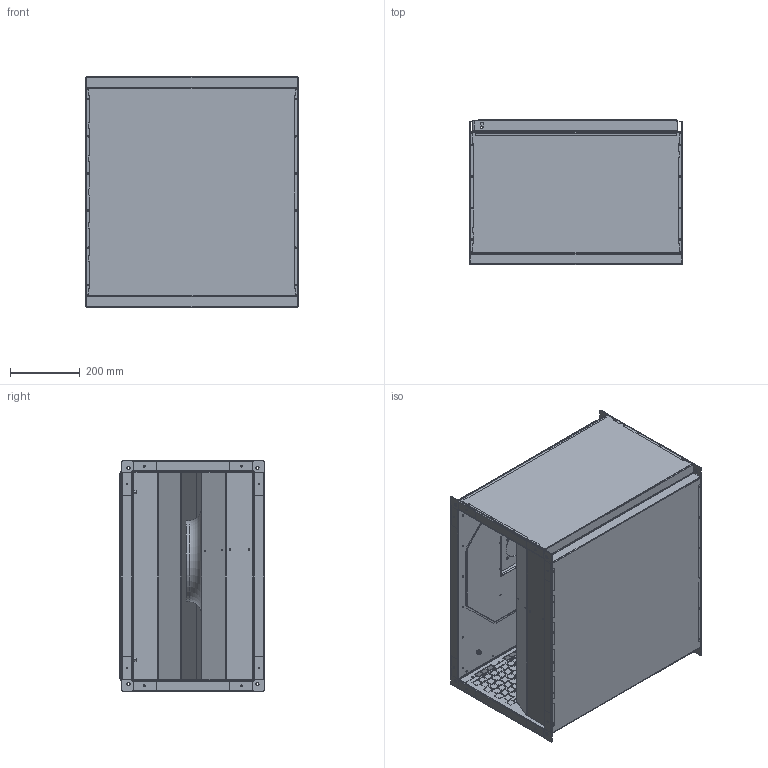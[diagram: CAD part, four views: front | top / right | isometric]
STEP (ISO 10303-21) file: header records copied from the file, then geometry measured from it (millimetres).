
FILE_DESCRIPTION (( 'STEP AP203' ), '1' );
FILE_NAME ('131437-00_KVRI06035EC30.STEP', '2015-05-11T11:44:35', ( '' ), ( '' ), 'SwSTEP 2.0', 'SolidWorks 2012', '' );
FILE_SCHEMA (( 'CONFIG_CONTROL_DESIGN' ));
Length unit declared in the file: millimetre
Products named in the file (1): 131437-00_KVRI06035EC30
Bounding box: 610 x 417.5 x 662 mm (x, y, z)
Surface area: 5349242.5 mm2 (no closed solid volume)
Topology: 0 solids, 57 shells, 1705 faces, 12591 edges, 10662 vertices
Faces by surface type: plane 1252, cylinder 433, bspline 10, torus 6, cone 4
Entity records: 120940 total; most frequent: CARTESIAN_POINT 26104, DIRECTION 17469, ORIENTED_EDGE 15665, EDGE_CURVE 12591, VECTOR 10959, LINE 10959, VERTEX_POINT 10662, EDGE_LOOP 4050
